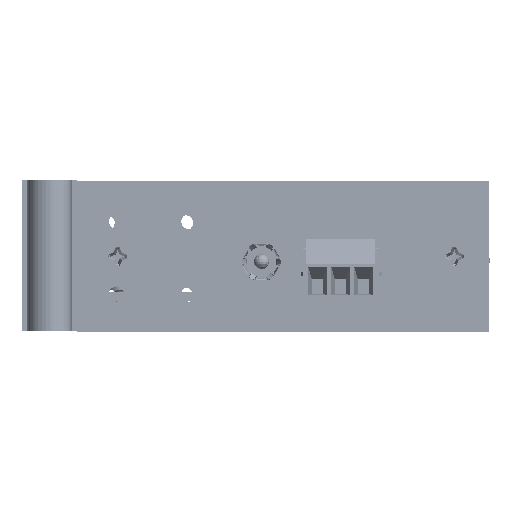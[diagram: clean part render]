
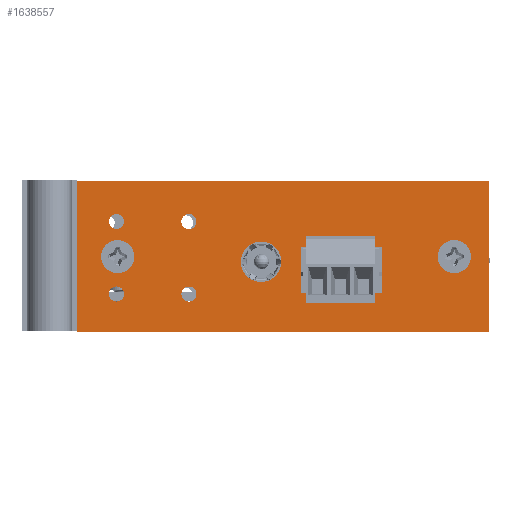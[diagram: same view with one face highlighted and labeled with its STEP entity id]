
A CAD part, left-side view. The second image highlights one B-rep face of the part: STEP entity #1638557.
In plain terms, the highlighted planar face has unit normal (-1, 0, 0).
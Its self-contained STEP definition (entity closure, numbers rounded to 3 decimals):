
#1638557 = ADVANCED_FACE('',(#1638558,#1638569,#1638603,#1638614,
    #1638625,#1638636,#1638647,#1638658,#1638692),#1638703,.F.);
#1638558 = FACE_BOUND('',#1638559,.F.);
#1638559 = EDGE_LOOP('',(#1638560));
#1638560 = ORIENTED_EDGE('',*,*,#1638561,.T.);
#1638561 = EDGE_CURVE('',#1638562,#1638562,#1638564,.T.);
#1638562 = VERTEX_POINT('',#1638563);
#1638563 = CARTESIAN_POINT('',(-1.,60.5,10.75));
#1638564 = CIRCLE('',#1638565,1.75);
#1638565 = AXIS2_PLACEMENT_3D('',#1638566,#1638567,#1638568);
#1638566 = CARTESIAN_POINT('',(-1.,60.5,12.5));
#1638567 = DIRECTION('',(-1.,-0.,0.));
#1638568 = DIRECTION('',(-0.,0.,-1.));
#1638569 = FACE_BOUND('',#1638570,.F.);
#1638570 = EDGE_LOOP('',(#1638571,#1638581,#1638589,#1638597));
#1638571 = ORIENTED_EDGE('',*,*,#1638572,.F.);
#1638572 = EDGE_CURVE('',#1638573,#1638575,#1638577,.T.);
#1638573 = VERTEX_POINT('',#1638574);
#1638574 = CARTESIAN_POINT('',(-1.,-1.,0.));
#1638575 = VERTEX_POINT('',#1638576);
#1638576 = CARTESIAN_POINT('',(-1.,-1.,25.1));
#1638577 = LINE('',#1638578,#1638579);
#1638578 = CARTESIAN_POINT('',(-1.,-1.,0.));
#1638579 = VECTOR('',#1638580,1.);
#1638580 = DIRECTION('',(0.,0.,1.));
#1638581 = ORIENTED_EDGE('',*,*,#1638582,.T.);
#1638582 = EDGE_CURVE('',#1638573,#1638583,#1638585,.T.);
#1638583 = VERTEX_POINT('',#1638584);
#1638584 = CARTESIAN_POINT('',(-1.,67.2,0.));
#1638585 = LINE('',#1638586,#1638587);
#1638586 = CARTESIAN_POINT('',(-1.,-1.,0.));
#1638587 = VECTOR('',#1638588,1.);
#1638588 = DIRECTION('',(0.,1.,0.));
#1638589 = ORIENTED_EDGE('',*,*,#1638590,.T.);
#1638590 = EDGE_CURVE('',#1638583,#1638591,#1638593,.T.);
#1638591 = VERTEX_POINT('',#1638592);
#1638592 = CARTESIAN_POINT('',(-1.,67.2,25.1));
#1638593 = LINE('',#1638594,#1638595);
#1638594 = CARTESIAN_POINT('',(-1.,67.2,0.));
#1638595 = VECTOR('',#1638596,1.);
#1638596 = DIRECTION('',(0.,0.,1.));
#1638597 = ORIENTED_EDGE('',*,*,#1638598,.F.);
#1638598 = EDGE_CURVE('',#1638575,#1638591,#1638599,.T.);
#1638599 = LINE('',#1638600,#1638601);
#1638600 = CARTESIAN_POINT('',(-1.,-1.,25.1));
#1638601 = VECTOR('',#1638602,1.);
#1638602 = DIRECTION('',(0.,1.,0.));
#1638603 = FACE_BOUND('',#1638604,.F.);
#1638604 = EDGE_LOOP('',(#1638605));
#1638605 = ORIENTED_EDGE('',*,*,#1638606,.T.);
#1638606 = EDGE_CURVE('',#1638607,#1638607,#1638609,.T.);
#1638607 = VERTEX_POINT('',#1638608);
#1638608 = CARTESIAN_POINT('',(-1.,60.7,5.05));
#1638609 = CIRCLE('',#1638610,1.25);
#1638610 = AXIS2_PLACEMENT_3D('',#1638611,#1638612,#1638613);
#1638611 = CARTESIAN_POINT('',(-1.,60.7,6.3));
#1638612 = DIRECTION('',(-1.,-0.,0.));
#1638613 = DIRECTION('',(0.,0.,-1.));
#1638614 = FACE_BOUND('',#1638615,.F.);
#1638615 = EDGE_LOOP('',(#1638616));
#1638616 = ORIENTED_EDGE('',*,*,#1638617,.T.);
#1638617 = EDGE_CURVE('',#1638618,#1638618,#1638620,.T.);
#1638618 = VERTEX_POINT('',#1638619);
#1638619 = CARTESIAN_POINT('',(-1.,48.7,5.05));
#1638620 = CIRCLE('',#1638621,1.25);
#1638621 = AXIS2_PLACEMENT_3D('',#1638622,#1638623,#1638624);
#1638622 = CARTESIAN_POINT('',(-1.,48.7,6.3));
#1638623 = DIRECTION('',(-1.,-0.,0.));
#1638624 = DIRECTION('',(0.,0.,-1.));
#1638625 = FACE_BOUND('',#1638626,.F.);
#1638626 = EDGE_LOOP('',(#1638627));
#1638627 = ORIENTED_EDGE('',*,*,#1638628,.T.);
#1638628 = EDGE_CURVE('',#1638629,#1638629,#1638631,.T.);
#1638629 = VERTEX_POINT('',#1638630);
#1638630 = CARTESIAN_POINT('',(-1.,36.75,8.3));
#1638631 = CIRCLE('',#1638632,3.35);
#1638632 = AXIS2_PLACEMENT_3D('',#1638633,#1638634,#1638635);
#1638633 = CARTESIAN_POINT('',(-1.,36.75,11.65));
#1638634 = DIRECTION('',(-1.,-0.,0.));
#1638635 = DIRECTION('',(0.,0.,-1.));
#1638636 = FACE_BOUND('',#1638637,.F.);
#1638637 = EDGE_LOOP('',(#1638638));
#1638638 = ORIENTED_EDGE('',*,*,#1638639,.T.);
#1638639 = EDGE_CURVE('',#1638640,#1638640,#1638642,.T.);
#1638640 = VERTEX_POINT('',#1638641);
#1638641 = CARTESIAN_POINT('',(-1.,60.7,17.05));
#1638642 = CIRCLE('',#1638643,1.25);
#1638643 = AXIS2_PLACEMENT_3D('',#1638644,#1638645,#1638646);
#1638644 = CARTESIAN_POINT('',(-1.,60.7,18.3));
#1638645 = DIRECTION('',(-1.,-0.,0.));
#1638646 = DIRECTION('',(0.,0.,-1.));
#1638647 = FACE_BOUND('',#1638648,.F.);
#1638648 = EDGE_LOOP('',(#1638649));
#1638649 = ORIENTED_EDGE('',*,*,#1638650,.T.);
#1638650 = EDGE_CURVE('',#1638651,#1638651,#1638653,.T.);
#1638651 = VERTEX_POINT('',#1638652);
#1638652 = CARTESIAN_POINT('',(-1.,48.7,17.05));
#1638653 = CIRCLE('',#1638654,1.25);
#1638654 = AXIS2_PLACEMENT_3D('',#1638655,#1638656,#1638657);
#1638655 = CARTESIAN_POINT('',(-1.,48.7,18.3));
#1638656 = DIRECTION('',(-1.,-0.,0.));
#1638657 = DIRECTION('',(0.,0.,-1.));
#1638658 = FACE_BOUND('',#1638659,.F.);
#1638659 = EDGE_LOOP('',(#1638660,#1638670,#1638678,#1638686));
#1638660 = ORIENTED_EDGE('',*,*,#1638661,.T.);
#1638661 = EDGE_CURVE('',#1638662,#1638664,#1638666,.T.);
#1638662 = VERTEX_POINT('',#1638663);
#1638663 = CARTESIAN_POINT('',(-1.,30.1,6.4));
#1638664 = VERTEX_POINT('',#1638665);
#1638665 = CARTESIAN_POINT('',(-1.,16.8,6.4));
#1638666 = LINE('',#1638667,#1638668);
#1638667 = CARTESIAN_POINT('',(-1.,7.9,6.4));
#1638668 = VECTOR('',#1638669,1.);
#1638669 = DIRECTION('',(0.,-1.,0.));
#1638670 = ORIENTED_EDGE('',*,*,#1638671,.T.);
#1638671 = EDGE_CURVE('',#1638664,#1638672,#1638674,.T.);
#1638672 = VERTEX_POINT('',#1638673);
#1638673 = CARTESIAN_POINT('',(-1.,16.8,14.1));
#1638674 = LINE('',#1638675,#1638676);
#1638675 = CARTESIAN_POINT('',(-1.,16.8,3.2));
#1638676 = VECTOR('',#1638677,1.);
#1638677 = DIRECTION('',(0.,0.,1.));
#1638678 = ORIENTED_EDGE('',*,*,#1638679,.F.);
#1638679 = EDGE_CURVE('',#1638680,#1638672,#1638682,.T.);
#1638680 = VERTEX_POINT('',#1638681);
#1638681 = CARTESIAN_POINT('',(-1.,30.1,14.1));
#1638682 = LINE('',#1638683,#1638684);
#1638683 = CARTESIAN_POINT('',(-1.,7.9,14.1));
#1638684 = VECTOR('',#1638685,1.);
#1638685 = DIRECTION('',(0.,-1.,0.));
#1638686 = ORIENTED_EDGE('',*,*,#1638687,.F.);
#1638687 = EDGE_CURVE('',#1638662,#1638680,#1638688,.T.);
#1638688 = LINE('',#1638689,#1638690);
#1638689 = CARTESIAN_POINT('',(-1.,30.1,3.2));
#1638690 = VECTOR('',#1638691,1.);
#1638691 = DIRECTION('',(0.,0.,1.));
#1638692 = FACE_BOUND('',#1638693,.F.);
#1638693 = EDGE_LOOP('',(#1638694));
#1638694 = ORIENTED_EDGE('',*,*,#1638695,.T.);
#1638695 = EDGE_CURVE('',#1638696,#1638696,#1638698,.T.);
#1638696 = VERTEX_POINT('',#1638697);
#1638697 = CARTESIAN_POINT('',(-1.,4.75,10.75));
#1638698 = CIRCLE('',#1638699,1.75);
#1638699 = AXIS2_PLACEMENT_3D('',#1638700,#1638701,#1638702);
#1638700 = CARTESIAN_POINT('',(-1.,4.75,12.5));
#1638701 = DIRECTION('',(-1.,-0.,0.));
#1638702 = DIRECTION('',(-0.,0.,-1.));
#1638703 = PLANE('',#1638704);
#1638704 = AXIS2_PLACEMENT_3D('',#1638705,#1638706,#1638707);
#1638705 = CARTESIAN_POINT('',(-1.,-1.,0.));
#1638706 = DIRECTION('',(1.,0.,0.));
#1638707 = DIRECTION('',(0.,0.,1.));
